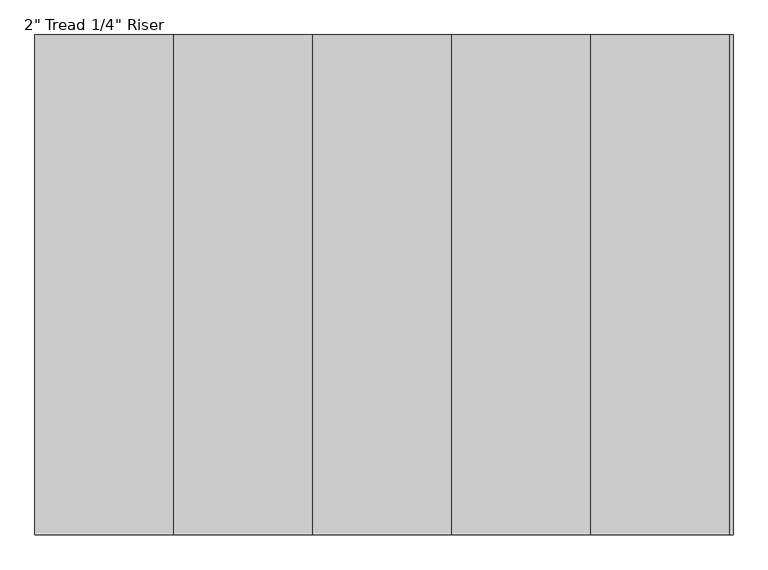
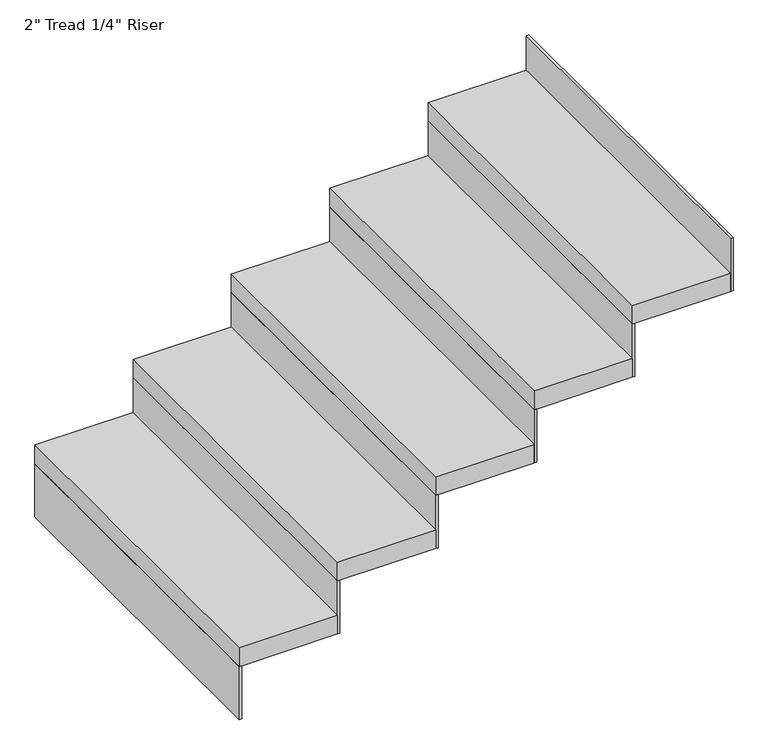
"""IFC4 building model written with IfcOpenShell, lengths in millimetres: stair flight geometry."""

from ifc_helpers import new_model, si_unit, frame, origin, place, context, project, spatial, polyline, outline, extrude, source, transform, mapped, element, save


def stair_flight_30a18637(model_context):
    return source(origin(), model_context, "Body", "SweptSolid", [
        extrude(outline(polyline([(138283.3974271, -18859.8846057), (138277.0474271, -18859.8846057), (138277.0474271, -17945.4846057), (138283.3974271, -17945.4846057), (138283.3974271, -18859.8846057)])), frame((0.0, 0.0, 2126.3428571), z_axis=(0.0, 0.0, 1.0), x_axis=(1.0, 0.0, 0.0)), (0.0, 0.0, 1.0), 145.1428571),
        extrude(outline(polyline([(138531.0474271, -17945.4846057), (138531.0474271, -18859.8846057), (138277.0474271, -18859.8846057), (138277.0474271, -17945.4846057), (138531.0474271, -17945.4846057)])), frame((0.0, 0.0, 2271.4857143), z_axis=(0.0, 0.0, 1.0), x_axis=(1.0, 0.0, 0.0)), (0.0, 0.0, 1.0), 50.8),
        extrude(outline(polyline([(138537.3974271, -18859.8846057), (138531.0474271, -18859.8846057), (138531.0474271, -17945.4846057), (138537.3974271, -17945.4846057), (138537.3974271, -18859.8846057)])), frame((0.0, 0.0, 2271.4857143), z_axis=(0.0, 0.0, 1.0), x_axis=(1.0, 0.0, 0.0)), (0.0, 0.0, 1.0), 145.1428571),
        extrude(outline(polyline([(138785.0474271, -17945.4846057), (138785.0474271, -18859.8846057), (138531.0474271, -18859.8846057), (138531.0474271, -17945.4846057), (138785.0474271, -17945.4846057)])), frame((0.0, 0.0, 2416.6285714), z_axis=(0.0, 0.0, 1.0), x_axis=(1.0, 0.0, 0.0)), (0.0, 0.0, 1.0), 50.8),
        extrude(outline(polyline([(138791.3974271, -18859.8846057), (138785.0474271, -18859.8846057), (138785.0474271, -17945.4846057), (138791.3974271, -17945.4846057), (138791.3974271, -18859.8846057)])), frame((0.0, 0.0, 2416.6285714), z_axis=(0.0, 0.0, 1.0), x_axis=(1.0, 0.0, 0.0)), (0.0, 0.0, 1.0), 145.1428571),
        extrude(outline(polyline([(139039.0474271, -17945.4846057), (139039.0474271, -18859.8846057), (138785.0474271, -18859.8846057), (138785.0474271, -17945.4846057), (139039.0474271, -17945.4846057)])), frame((0.0, 0.0, 2561.7714286), z_axis=(0.0, 0.0, 1.0), x_axis=(1.0, 0.0, 0.0)), (0.0, 0.0, 1.0), 50.8),
        extrude(outline(polyline([(139045.3974271, -18859.8846057), (139039.0474271, -18859.8846057), (139039.0474271, -17945.4846057), (139045.3974271, -17945.4846057), (139045.3974271, -18859.8846057)])), frame((0.0, 0.0, 2561.7714286), z_axis=(0.0, 0.0, 1.0), x_axis=(1.0, 0.0, 0.0)), (0.0, 0.0, 1.0), 145.1428571),
        extrude(outline(polyline([(139293.0474271, -17945.4846057), (139293.0474271, -18859.8846057), (139039.0474271, -18859.8846057), (139039.0474271, -17945.4846057), (139293.0474271, -17945.4846057)])), frame((0.0, 0.0, 2706.9142857), z_axis=(0.0, 0.0, 1.0), x_axis=(1.0, 0.0, 0.0)), (0.0, 0.0, 1.0), 50.8),
        extrude(outline(polyline([(139299.3974271, -18859.8846057), (139293.0474271, -18859.8846057), (139293.0474271, -17945.4846057), (139299.3974271, -17945.4846057), (139299.3974271, -18859.8846057)])), frame((0.0, 0.0, 2706.9142857), z_axis=(0.0, 0.0, 1.0), x_axis=(1.0, 0.0, 0.0)), (0.0, 0.0, 1.0), 145.1428571),
        extrude(outline(polyline([(139553.3974271, -18859.8846057), (139547.0474271, -18859.8846057), (139547.0474271, -17945.4846057), (139553.3974271, -17945.4846057), (139553.3974271, -18859.8846057)])), frame((0.0, 0.0, 2852.0571429), z_axis=(0.0, 0.0, 1.0), x_axis=(1.0, 0.0, 0.0)), (0.0, 0.0, 1.0), 145.1428571),
        extrude(outline(polyline([(139547.0474271, -17945.4846057), (139547.0474271, -18859.8846057), (139293.0474271, -18859.8846057), (139293.0474271, -17945.4846057), (139547.0474271, -17945.4846057)])), frame((0.0, 0.0, 2852.0571429), z_axis=(0.0, 0.0, 1.0), x_axis=(1.0, 0.0, 0.0)), (0.0, 0.0, 1.0), 50.8),
    ])


if __name__ == "__main__":
    model = new_model("IFC4")
    model_context = context("Model", 3, world=origin())
    ifc_project = project(units=[si_unit("LENGTHUNIT", "METRE", prefix="MILLI")], contexts=[model_context])
    site = spatial("IfcSite", under=ifc_project)
    building = spatial("IfcBuilding", under=site)
    placement = place(None, origin())
    stair_flight_shape = stair_flight_30a18637(model_context)
    element("IfcStairFlight", 1, ObjectType="2\" Tread 1/4\" Riser", at=placement, inside=building, context=model_context, shape_type="MappedRepresentation", body=[
        mapped(stair_flight_shape, transform((0.0, 0.0, 0.0), x_axis=(1.0, 0.0, 0.0), y_axis=(0.0, 1.0, 0.0), z_axis=(0.0, 0.0, 1.0))),
    ])
    save(model, "model.ifc")
